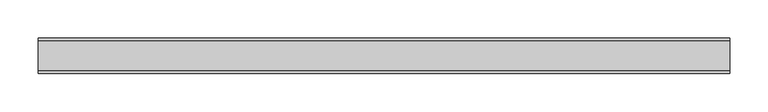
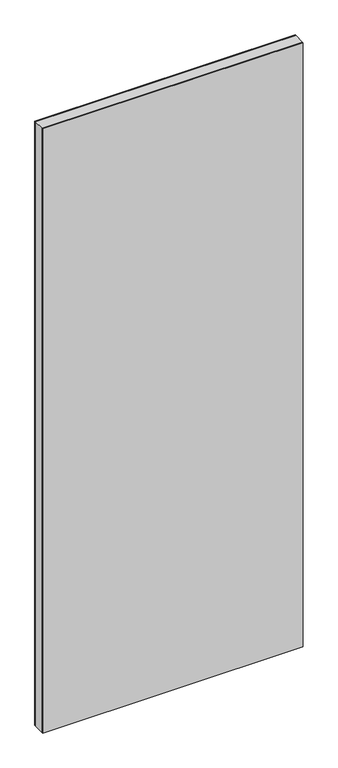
"""IFC4 building model written with IfcOpenShell, lengths in millimetres: proxy geometry, Renson_Amani_Loggia_Canvas_Fix : Renson_Amani_Loggia_Canvas_Fix."""

from ifc_helpers import new_model, si_unit, frame, origin, place, context, project, spatial, polyline, outline, extrude, source, transform, mapped, element, save


def generic_models_af797f2e(model_context):
    return source(origin(), model_context, "Body", "SweptSolid", [
        extrude(outline(polyline([(450.0, 20.0), (-450.0, 20.0), (-450.0, 23.0), (450.0, 23.0), (450.0, 20.0)])), frame((0.0, 0.0, 45.0), z_axis=(0.0, 0.0, 1.0), x_axis=(1.0, 0.0, 0.0)), (0.0, 0.0, 1.0), 2205.0),
        extrude(outline(polyline([(450.0, -23.0), (-450.0, -23.0), (-450.0, -20.0), (450.0, -20.0), (450.0, -23.0)])), frame((0.0, 0.0, 45.0), z_axis=(0.0, 0.0, 1.0), x_axis=(1.0, 0.0, 0.0)), (0.0, 0.0, 1.0), 2205.0),
        extrude(outline(polyline([(2250.0, -450.0), (45.0, -450.0), (45.0, 450.0), (2250.0, 450.0), (2250.0, -450.0)]), holes=[polyline([(2210.0, 410.0), (85.0, 410.0), (85.0, -410.0), (2210.0, -410.0), (2210.0, 410.0)])]), frame((0.0, -20.0, 0.0), z_axis=(0.0, 1.0, 0.0), x_axis=(0.0, 0.0, 1.0)), (0.0, 0.0, 1.0), 40.0),
    ])


if __name__ == "__main__":
    model = new_model("IFC4")
    model_context = context("Model", 3, world=origin())
    ifc_project = project(units=[si_unit("LENGTHUNIT", "METRE", prefix="MILLI")], contexts=[model_context])
    site = spatial("IfcSite", under=ifc_project)
    building = spatial("IfcBuilding", under=site)
    placement = place(None, origin())
    generic_models_shape = generic_models_af797f2e(model_context)
    element("IfcBuildingElementProxy", 1, Name="Renson_Amani_Loggia_Canvas_Fix : Renson_Amani_Loggia_Canvas_Fix", ObjectType="Renson_Amani_Loggia_Canvas_Fix : Renson_Amani_Loggia_Canvas_Fix", at=placement, inside=building, context=model_context, shape_type="MappedRepresentation", body=[
        mapped(generic_models_shape, transform((0.0, 0.0, 0.0), x_axis=(1.0, 0.0, 0.0), y_axis=(0.0, 1.0, 0.0), z_axis=(0.0, 0.0, 1.0))),
    ])
    save(model, "model.ifc")
